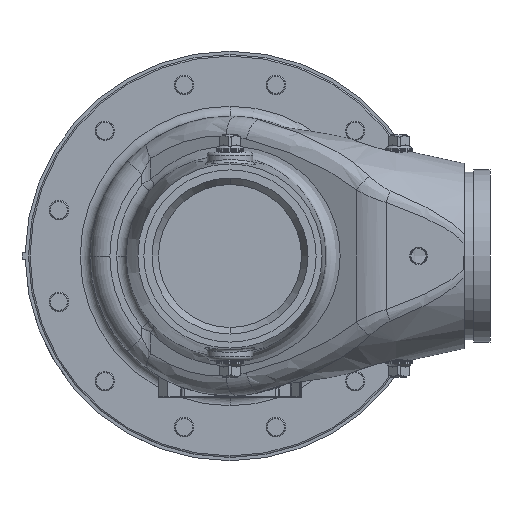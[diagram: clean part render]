
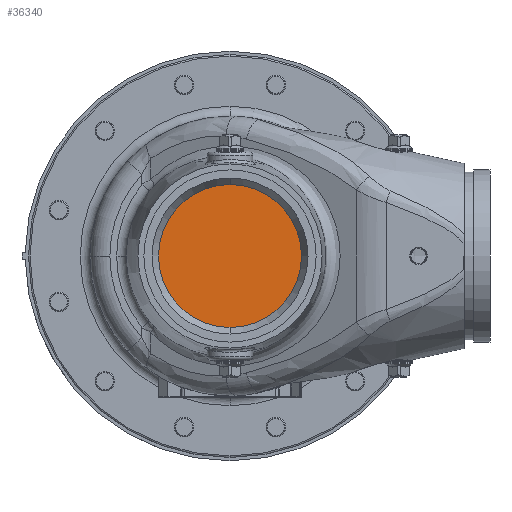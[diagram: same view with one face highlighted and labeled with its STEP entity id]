
A CAD part, front view. The second image highlights one B-rep face of the part: STEP entity #36340.
In plain terms, the highlighted planar face has unit normal (0, -1, 0).
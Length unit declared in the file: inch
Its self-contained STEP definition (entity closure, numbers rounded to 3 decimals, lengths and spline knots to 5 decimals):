
#21 = AXIS2_PLACEMENT_3D ( 'NONE', #9799, #21415, #25018 ) ;
#1955 = FACE_OUTER_BOUND ( 'NONE', #14520, .T. ) ;
#2092 = EDGE_CURVE ( 'NONE', #13323, #34238, #21884, .T. ) ;
#3567 = ORIENTED_EDGE ( 'NONE', *, *, #14686, .F. ) ;
#5361 = CARTESIAN_POINT ( 'NONE',  ( 0., -5.5, 0. ) ) ;
#6503 = CARTESIAN_POINT ( 'NONE',  ( 0., -5.5, 0. ) ) ;
#9799 = CARTESIAN_POINT ( 'NONE',  ( 0., -5.5, 0. ) ) ;
#11714 = AXIS2_PLACEMENT_3D ( 'NONE', #6503, #18133, #29333 ) ;
#13323 = VERTEX_POINT ( 'NONE', #18839 ) ;
#14520 = EDGE_LOOP ( 'NONE', ( #30757, #3567 ) ) ;
#14686 = EDGE_CURVE ( 'NONE', #34238, #13323, #36037, .T. ) ;
#18133 = DIRECTION ( 'NONE',  ( 0., 1., 0. ) ) ;
#18839 = CARTESIAN_POINT ( 'NONE',  ( 0., -5.5, -2.75 ) ) ;
#20213 = DIRECTION ( 'NONE',  ( 0., 1., 0. ) ) ;
#21415 = DIRECTION ( 'NONE',  ( 0., -1., 0. ) ) ;
#21884 = CIRCLE ( 'NONE', #35224, 2.75 ) ;
#23236 = DIRECTION ( 'NONE',  ( 0., 0., -1. ) ) ;
#24259 = PLANE ( 'NONE',  #21 ) ;
#25018 = DIRECTION ( 'NONE',  ( 0., 0., -1. ) ) ;
#29333 = DIRECTION ( 'NONE',  ( 0., 0., -1. ) ) ;
#30757 = ORIENTED_EDGE ( 'NONE', *, *, #2092, .F. ) ;
#34238 = VERTEX_POINT ( 'NONE', #34581 ) ;
#34581 = CARTESIAN_POINT ( 'NONE',  ( 0., -5.5, 2.75 ) ) ;
#35224 = AXIS2_PLACEMENT_3D ( 'NONE', #5361, #20213, #23236 ) ;
#36037 = CIRCLE ( 'NONE', #11714, 2.75 ) ;
#36340 = ADVANCED_FACE ( 'NONE', ( #1955 ), #24259, .T. ) ;
